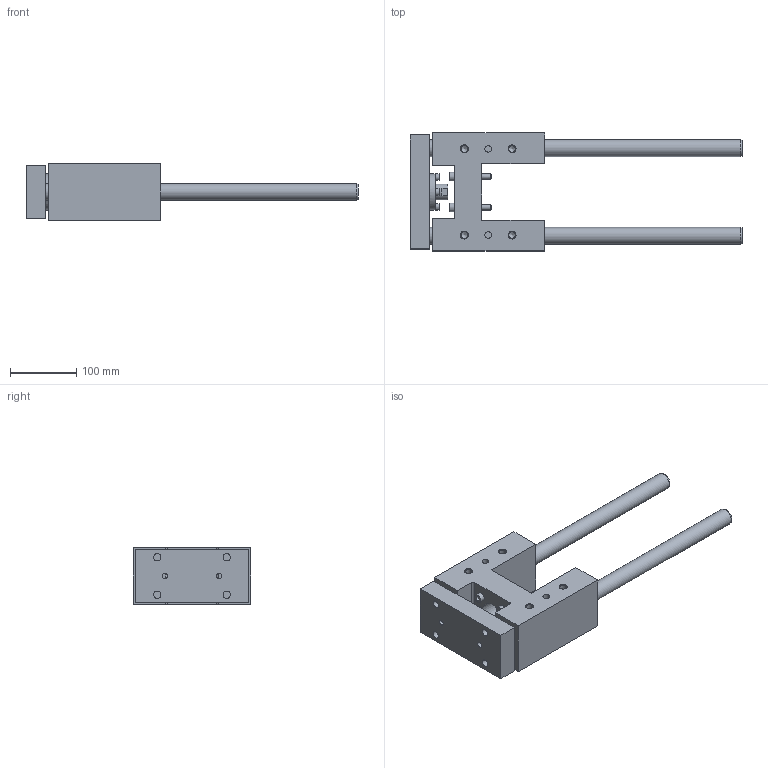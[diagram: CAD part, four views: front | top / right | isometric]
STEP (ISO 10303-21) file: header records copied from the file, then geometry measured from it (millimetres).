
FILE_DESCRIPTION( ( 'STEP AP214' ), '1' );
FILE_NAME( 'U:/Etudes/Top Solid/BIBLIO 3D AVM/TOP/PNEUMATIQUE/GUIDAGES/Type 32 (en H)/R_Renforcée/326R5_30.step', '2005-05-27T09:02:27', ( ' ' ), ( ' ' ), 'XStep 1.0', ' ', ' ' );
FILE_SCHEMA( ( 'automotive_design' ) );
Length unit declared in the file: metre
Products named in the file (2): 1; 2
Bounding box: 501 x 178 x 85 mm (x, y, z)
Volume: 2273556.2 mm3; surface area: 294067.1 mm2
Topology: 2 solids, 7 shells, 209 faces, 484 edges, 321 vertices
Faces by surface type: plane 118, cylinder 70, cone 21
Full cylindrical faces by diameter (mm): 6 x8, 6.5 x4, 8 x10, 8.376 x4, 9 x4, 10 x6, 10.106 x8, 11 x4, 13 x4, 14.376 x2, 18 x4, 24 x1, 25 x4, 26 x1, 34 x1, 37 x1, 40 x1, 55 x1
Entity records: 7089 total; most frequent: CARTESIAN_POINT 1103, DIRECTION 900, ORIENTED_EDGE 696, EDGE_LOOP 358, AXIS2_PLACEMENT_3D 349, EDGE_CURVE 348, VERTEX_POINT 280, FACE_OUTER_BOUND 277
